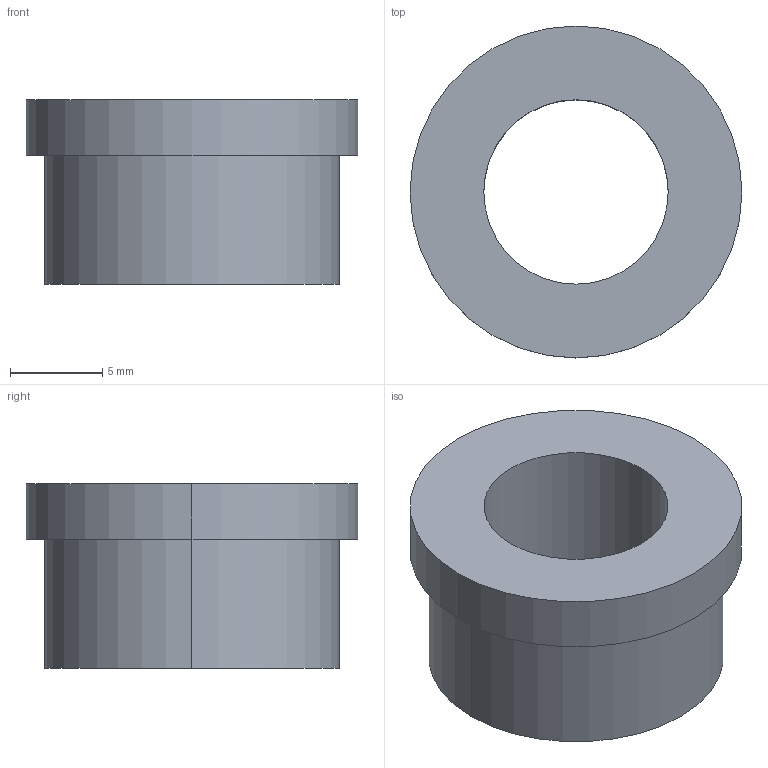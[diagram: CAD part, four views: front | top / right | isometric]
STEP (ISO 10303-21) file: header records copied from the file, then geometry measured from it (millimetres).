
FILE_DESCRIPTION(/* description */ (''),/* implementation_level */ '2;1');
FILE_NAME(/* name */ '3d_tgbf10-10_00356_r00.stp',/* time_stamp */ '2011-01-10T14:09:04+09:00',/* author */ ('MISUMI'),/* organization */ (''),/* preprocessor_version */ 'ST-DEVELOPER v11',/* originating_system */ 'UGS - NX 5.0',/* authorisation */ '');
FILE_SCHEMA (('CONFIG_CONTROL_DESIGN'));
Length unit declared in the file: millimetre
Products named in the file (1): 3d_tgbf10-10_00356_r00
Bounding box: 18 x 18 x 10 mm (x, y, z)
Volume: 1385.4 mm3; surface area: 1187.5 mm2
Topology: 1 solids, 1 shells, 9 faces, 18 edges, 12 vertices
Faces by surface type: cylinder 6, plane 3
Entity records: 334 total; most frequent: DIRECTION 50, CARTESIAN_POINT 40, ORIENTED_EDGE 36, AXIS2_PLACEMENT_3D 22, EDGE_CURVE 18, EDGE_LOOP 12, CIRCLE 12, VERTEX_POINT 12
